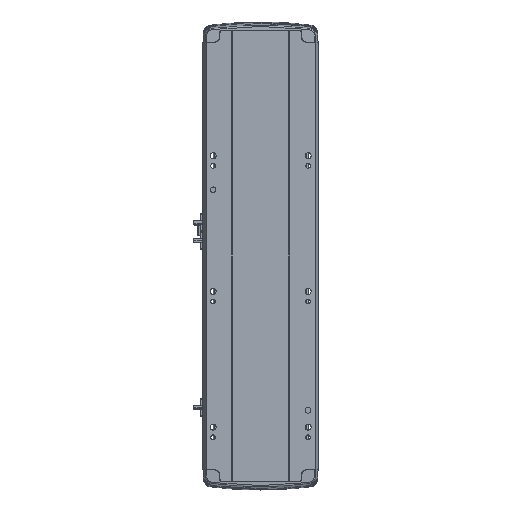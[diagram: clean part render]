
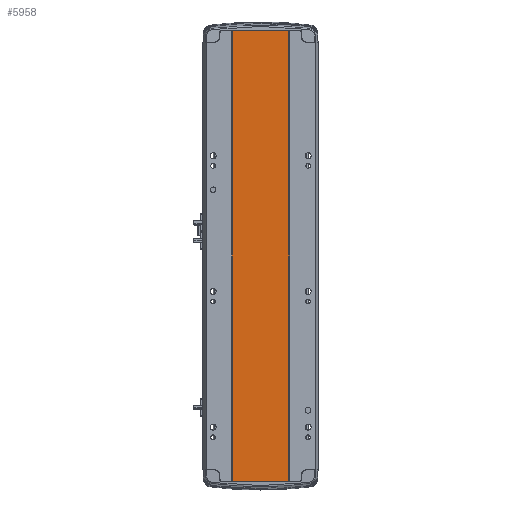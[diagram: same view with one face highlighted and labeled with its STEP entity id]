
A CAD part, front view. The second image highlights one B-rep face of the part: STEP entity #5958.
In plain terms, the highlighted planar face has unit normal (0, -1, 0).
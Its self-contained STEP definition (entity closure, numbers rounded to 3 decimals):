
#2023 = CARTESIAN_POINT ( 'NONE',  ( 0., 0.999, 0. ) ) ;
#2440 = EDGE_LOOP ( 'NONE', ( #4549, #33375, #12036, #26636 ) ) ;
#4549 = ORIENTED_EDGE ( 'NONE', *, *, #30834, .T. ) ;
#4994 = VECTOR ( 'NONE', #33285, 1000. ) ;
#5666 = DIRECTION ( 'NONE',  ( 0., 0., -1. ) ) ;
#5740 = EDGE_CURVE ( 'NONE', #12034, #16259, #30924, .T. ) ;
#5958 = ADVANCED_FACE ( 'NONE', ( #21954 ), #36892, .F. ) ;
#12034 = VERTEX_POINT ( 'NONE', #23183 ) ;
#12036 = ORIENTED_EDGE ( 'NONE', *, *, #20369, .F. ) ;
#15924 = VECTOR ( 'NONE', #17174, 1000. ) ;
#16259 = VERTEX_POINT ( 'NONE', #29974 ) ;
#17174 = DIRECTION ( 'NONE',  ( 1., 0., 0. ) ) ;
#17803 = AXIS2_PLACEMENT_3D ( 'NONE', #18848, #18702, #24384 ) ;
#18689 = CARTESIAN_POINT ( 'NONE',  ( -41.791, 1., 0. ) ) ;
#18702 = DIRECTION ( 'NONE',  ( 0., 1., 0. ) ) ;
#18848 = CARTESIAN_POINT ( 'NONE',  ( 0., 0.999, 664.5 ) ) ;
#20369 = EDGE_CURVE ( 'NONE', #25330, #12034, #32061, .T. ) ;
#20677 = DIRECTION ( 'NONE',  ( 1., 0., 0. ) ) ;
#21399 = VERTEX_POINT ( 'NONE', #18689 ) ;
#21954 = FACE_OUTER_BOUND ( 'NONE', #2440, .T. ) ;
#22467 = VECTOR ( 'NONE', #5666, 1000. ) ;
#23024 = EDGE_CURVE ( 'NONE', #25330, #21399, #35174, .T. ) ;
#23183 = CARTESIAN_POINT ( 'NONE',  ( 41.793, 0.998, 664.5 ) ) ;
#23577 = VECTOR ( 'NONE', #20677, 1000. ) ;
#24384 = DIRECTION ( 'NONE',  ( -1., 0., 0. ) ) ;
#25330 = VERTEX_POINT ( 'NONE', #26707 ) ;
#25896 = LINE ( 'NONE', #2023, #15924 ) ;
#26636 = ORIENTED_EDGE ( 'NONE', *, *, #23024, .T. ) ;
#26707 = CARTESIAN_POINT ( 'NONE',  ( -41.791, 1., 664.5 ) ) ;
#29974 = CARTESIAN_POINT ( 'NONE',  ( 41.793, 0.998, 0. ) ) ;
#30834 = EDGE_CURVE ( 'NONE', #21399, #16259, #25896, .T. ) ;
#30924 = LINE ( 'NONE', #38753, #22467 ) ;
#32061 = LINE ( 'NONE', #38734, #23577 ) ;
#33285 = DIRECTION ( 'NONE',  ( 0., 0., -1. ) ) ;
#33375 = ORIENTED_EDGE ( 'NONE', *, *, #5740, .F. ) ;
#35174 = LINE ( 'NONE', #36453, #4994 ) ;
#36453 = CARTESIAN_POINT ( 'NONE',  ( -41.791, 1., 664.5 ) ) ;
#36892 = PLANE ( 'NONE',  #17803 ) ;
#38734 = CARTESIAN_POINT ( 'NONE',  ( 0., 0.999, 664.5 ) ) ;
#38753 = CARTESIAN_POINT ( 'NONE',  ( 41.793, 0.998, 664.5 ) ) ;
